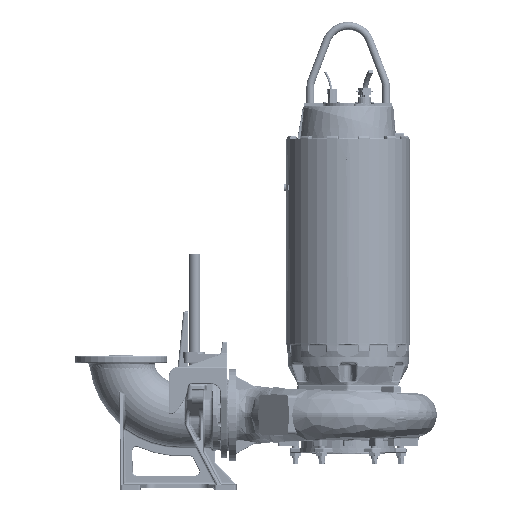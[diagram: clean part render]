
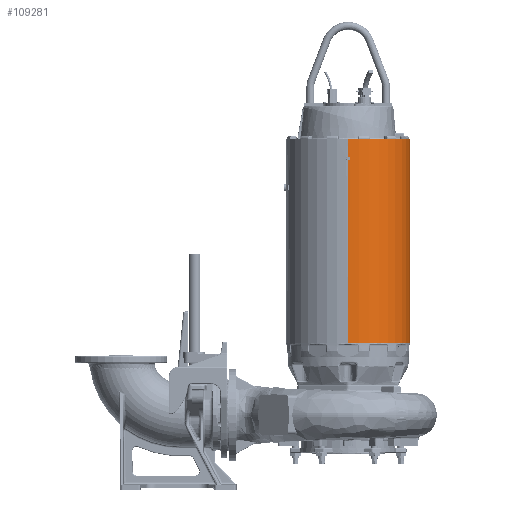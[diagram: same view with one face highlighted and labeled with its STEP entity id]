
A CAD part, top view. The second image highlights one B-rep face of the part: STEP entity #109281.
In plain terms, the highlighted cylindrical face has radius 322 mm (diameter 644 mm), a partial arc.
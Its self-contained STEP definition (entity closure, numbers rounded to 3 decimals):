
#445 = CARTESIAN_POINT ( 'NONE',  ( 0., 0., -322. ) ) ;
#4085 = CARTESIAN_POINT ( 'NONE',  ( 0., 1040., -322. ) ) ;
#10071 = CARTESIAN_POINT ( 'NONE',  ( 0., -20., -322. ) ) ;
#11967 = EDGE_CURVE ( 'NONE', #193850, #30361, #275654, .T. ) ;
#12788 =( BOUNDED_CURVE ( )  B_SPLINE_CURVE ( 3, ( #124535, #148515, #66896, #316126 ),
 .UNSPECIFIED., .F., .T. ) 
 B_SPLINE_CURVE_WITH_KNOTS ( ( 4, 4 ),
 ( 1.541, 1.571 ),
 .UNSPECIFIED. ) 
 CURVE ( )  GEOMETRIC_REPRESENTATION_ITEM ( )  RATIONAL_B_SPLINE_CURVE ( ( 1., 1., 1., 1. ) ) 
 REPRESENTATION_ITEM ( '' )  );
#15749 = DIRECTION ( 'NONE',  ( 0., -1., 0. ) ) ;
#16051 = EDGE_CURVE ( 'NONE', #184536, #71709, #12788, .T. ) ;
#20023 = VERTEX_POINT ( 'NONE', #24870 ) ;
#24870 = CARTESIAN_POINT ( 'NONE',  ( 9.5, 945.485, -321.86 ) ) ;
#30361 = VERTEX_POINT ( 'NONE', #161433 ) ;
#34166 = CARTESIAN_POINT ( 'NONE',  ( 0., 950.97, 322. ) ) ;
#34638 = EDGE_LOOP ( 'NONE', ( #50419, #70350, #75088, #109288, #121925, #126470, #156737, #168849, #185250, #192194, #198974, #223097 ) ) ;
#34849 = VERTEX_POINT ( 'NONE', #252628 ) ;
#41419 = DIRECTION ( 'NONE',  ( 0., -1., 0. ) ) ;
#44350 = CARTESIAN_POINT ( 'NONE',  ( 9.5, 1180.349, 321.86 ) ) ;
#47394 = DIRECTION ( 'NONE',  ( 0., -1., 0. ) ) ;
#47667 = LINE ( 'NONE', #260436, #56358 ) ;
#48312 = AXIS2_PLACEMENT_3D ( 'NONE', #157331, #348873, #184840 ) ;
#50419 = ORIENTED_EDGE ( 'NONE', *, *, #179325, .T. ) ;
#56334 = CARTESIAN_POINT ( 'NONE',  ( 9.5, 945.485, -321.86 ) ) ;
#56358 = VECTOR ( 'NONE', #15749, 1000. ) ;
#57485 = LINE ( 'NONE', #44350, #340364 ) ;
#57526 = EDGE_CURVE ( 'NONE', #107269, #287694, #47667, .T. ) ;
#57856 = CARTESIAN_POINT ( 'NONE',  ( 9.5, 934.515, 321.86 ) ) ;
#58195 = CARTESIAN_POINT ( 'NONE',  ( 3.167, 930.859, 322. ) ) ;
#64450 = EDGE_CURVE ( 'NONE', #71709, #154677, #223325, .T. ) ;
#64736 = CARTESIAN_POINT ( 'NONE',  ( 0., 929.03, 322. ) ) ;
#66896 = CARTESIAN_POINT ( 'NONE',  ( 3.167, 930.859, -322. ) ) ;
#70350 = ORIENTED_EDGE ( 'NONE', *, *, #57526, .T. ) ;
#71709 = VERTEX_POINT ( 'NONE', #352070 ) ;
#73427 = EDGE_CURVE ( 'NONE', #137856, #20023, #195486, .T. ) ;
#74425 = CARTESIAN_POINT ( 'NONE',  ( 9.5, 1180.349, -321.86 ) ) ;
#74573 = AXIS2_PLACEMENT_3D ( 'NONE', #345786, #47394, #157768 ) ;
#75088 = ORIENTED_EDGE ( 'NONE', *, *, #273322, .T. ) ;
#85861 = CARTESIAN_POINT ( 'NONE',  ( 9.5, 934.515, 321.86 ) ) ;
#89295 = EDGE_CURVE ( 'NONE', #351187, #137856, #212031, .T. ) ;
#102136 = DIRECTION ( 'NONE',  ( 0., -1., 0. ) ) ;
#106736 = FACE_OUTER_BOUND ( 'NONE', #34638, .T. ) ;
#107269 = VERTEX_POINT ( 'NONE', #235570 ) ;
#108516 = CARTESIAN_POINT ( 'NONE',  ( 9.5, 934.515, -321.86 ) ) ;
#109281 = ADVANCED_FACE ( 'NONE', ( #106736 ), #218073, .T. ) ;
#109288 = ORIENTED_EDGE ( 'NONE', *, *, #288277, .T. ) ;
#121925 = ORIENTED_EDGE ( 'NONE', *, *, #140885, .T. ) ;
#124535 = CARTESIAN_POINT ( 'NONE',  ( 9.5, 934.515, -321.86 ) ) ;
#126470 = ORIENTED_EDGE ( 'NONE', *, *, #11967, .T. ) ;
#130790 = DIRECTION ( 'NONE',  ( 0., -1., 0. ) ) ;
#135525 = CARTESIAN_POINT ( 'NONE',  ( 3.167, 949.141, 322. ) ) ;
#137856 = VERTEX_POINT ( 'NONE', #201512 ) ;
#140885 = EDGE_CURVE ( 'NONE', #288052, #193850, #281881, .T. ) ;
#146998 = EDGE_CURVE ( 'NONE', #20023, #184536, #217757, .T. ) ;
#148515 = CARTESIAN_POINT ( 'NONE',  ( 6.334, 932.687, -321.953 ) ) ;
#154677 = VERTEX_POINT ( 'NONE', #10071 ) ;
#156737 = ORIENTED_EDGE ( 'NONE', *, *, #338017, .F. ) ;
#157331 = CARTESIAN_POINT ( 'NONE',  ( 0., 1040., 0. ) ) ;
#157768 = DIRECTION ( 'NONE',  ( 0., 0., -1. ) ) ;
#161433 = CARTESIAN_POINT ( 'NONE',  ( 0., -20., 322. ) ) ;
#168849 = ORIENTED_EDGE ( 'NONE', *, *, #64450, .F. ) ;
#179325 = EDGE_CURVE ( 'NONE', #351187, #107269, #255485, .T. ) ;
#184536 = VERTEX_POINT ( 'NONE', #108516 ) ;
#184840 = DIRECTION ( 'NONE',  ( 0., 0., -1. ) ) ;
#185250 = ORIENTED_EDGE ( 'NONE', *, *, #16051, .F. ) ;
#190534 = CARTESIAN_POINT ( 'NONE',  ( 9.5, 945.485, 321.86 ) ) ;
#192194 = ORIENTED_EDGE ( 'NONE', *, *, #146998, .F. ) ;
#192999 = CARTESIAN_POINT ( 'NONE',  ( 3.167, 949.141, -322. ) ) ;
#193850 = VERTEX_POINT ( 'NONE', #64736 ) ;
#195486 =( BOUNDED_CURVE ( )  B_SPLINE_CURVE ( 3, ( #291192, #192999, #220554, #56334 ),
 .UNSPECIFIED., .F., .T. ) 
 B_SPLINE_CURVE_WITH_KNOTS ( ( 4, 4 ),
 ( 1.571, 1.6 ),
 .UNSPECIFIED. ) 
 CURVE ( )  GEOMETRIC_REPRESENTATION_ITEM ( )  RATIONAL_B_SPLINE_CURVE ( ( 1., 1., 1., 1. ) ) 
 REPRESENTATION_ITEM ( '' )  );
#198974 = ORIENTED_EDGE ( 'NONE', *, *, #73427, .F. ) ;
#201512 = CARTESIAN_POINT ( 'NONE',  ( 0., 950.97, -322. ) ) ;
#202715 = VECTOR ( 'NONE', #268537, 1000. ) ;
#204861 = CIRCLE ( 'NONE', #323393, 322. ) ;
#205718 = CARTESIAN_POINT ( 'NONE',  ( 0., -20., 0. ) ) ;
#209160 = VECTOR ( 'NONE', #102136, 1000. ) ;
#212031 = LINE ( 'NONE', #445, #284900 ) ;
#217757 = LINE ( 'NONE', #74425, #209160 ) ;
#218073 = CYLINDRICAL_SURFACE ( 'NONE', #74573, 322. ) ;
#220554 = CARTESIAN_POINT ( 'NONE',  ( 6.334, 947.313, -321.953 ) ) ;
#223097 = ORIENTED_EDGE ( 'NONE', *, *, #89295, .F. ) ;
#223325 = LINE ( 'NONE', #288050, #296252 ) ;
#230369 =( BOUNDED_CURVE ( )  B_SPLINE_CURVE ( 3, ( #327064, #135525, #354551, #190534 ),
 .UNSPECIFIED., .F., .T. ) 
 B_SPLINE_CURVE_WITH_KNOTS ( ( 4, 4 ),
 ( 1.571, 1.6 ),
 .UNSPECIFIED. ) 
 CURVE ( )  GEOMETRIC_REPRESENTATION_ITEM ( )  RATIONAL_B_SPLINE_CURVE ( ( 1., 1., 1., 1. ) ) 
 REPRESENTATION_ITEM ( '' )  );
#233225 = DIRECTION ( 'NONE',  ( 1., 0., 0. ) ) ;
#235570 = CARTESIAN_POINT ( 'NONE',  ( 0., 1040., 322. ) ) ;
#246249 = DIRECTION ( 'NONE',  ( 0., -1., 0. ) ) ;
#249929 = CARTESIAN_POINT ( 'NONE',  ( 6.334, 932.687, 321.953 ) ) ;
#252628 = CARTESIAN_POINT ( 'NONE',  ( 9.5, 945.485, 321.86 ) ) ;
#255485 = CIRCLE ( 'NONE', #48312, 322. ) ;
#260436 = CARTESIAN_POINT ( 'NONE',  ( 0., 0., 322. ) ) ;
#268537 = DIRECTION ( 'NONE',  ( 0., -1., 0. ) ) ;
#273322 = EDGE_CURVE ( 'NONE', #287694, #34849, #230369, .T. ) ;
#275654 = LINE ( 'NONE', #282280, #202715 ) ;
#277525 = CARTESIAN_POINT ( 'NONE',  ( 0., 929.03, 322. ) ) ;
#281881 =( BOUNDED_CURVE ( )  B_SPLINE_CURVE ( 3, ( #85861, #249929, #58195, #277525 ),
 .UNSPECIFIED., .F., .T. ) 
 B_SPLINE_CURVE_WITH_KNOTS ( ( 4, 4 ),
 ( 1.541, 1.571 ),
 .UNSPECIFIED. ) 
 CURVE ( )  GEOMETRIC_REPRESENTATION_ITEM ( )  RATIONAL_B_SPLINE_CURVE ( ( 1., 1., 1., 1. ) ) 
 REPRESENTATION_ITEM ( '' )  );
#282280 = CARTESIAN_POINT ( 'NONE',  ( 0., 0., 322. ) ) ;
#284900 = VECTOR ( 'NONE', #246249, 1000. ) ;
#287694 = VERTEX_POINT ( 'NONE', #34166 ) ;
#288052 = VERTEX_POINT ( 'NONE', #57856 ) ;
#288050 = CARTESIAN_POINT ( 'NONE',  ( 0., 0., -322. ) ) ;
#288277 = EDGE_CURVE ( 'NONE', #34849, #288052, #57485, .T. ) ;
#291192 = CARTESIAN_POINT ( 'NONE',  ( 0., 950.97, -322. ) ) ;
#296252 = VECTOR ( 'NONE', #323679, 1000. ) ;
#316126 = CARTESIAN_POINT ( 'NONE',  ( 0., 929.03, -322. ) ) ;
#323393 = AXIS2_PLACEMENT_3D ( 'NONE', #205718, #41419, #233225 ) ;
#323679 = DIRECTION ( 'NONE',  ( 0., -1., 0. ) ) ;
#327064 = CARTESIAN_POINT ( 'NONE',  ( 0., 950.97, 322. ) ) ;
#338017 = EDGE_CURVE ( 'NONE', #154677, #30361, #204861, .T. ) ;
#340364 = VECTOR ( 'NONE', #130790, 1000. ) ;
#345786 = CARTESIAN_POINT ( 'NONE',  ( 0., 0., 0. ) ) ;
#348873 = DIRECTION ( 'NONE',  ( 0., -1., 0. ) ) ;
#351187 = VERTEX_POINT ( 'NONE', #4085 ) ;
#352070 = CARTESIAN_POINT ( 'NONE',  ( 0., 929.03, -322. ) ) ;
#354551 = CARTESIAN_POINT ( 'NONE',  ( 6.334, 947.313, 321.953 ) ) ;
